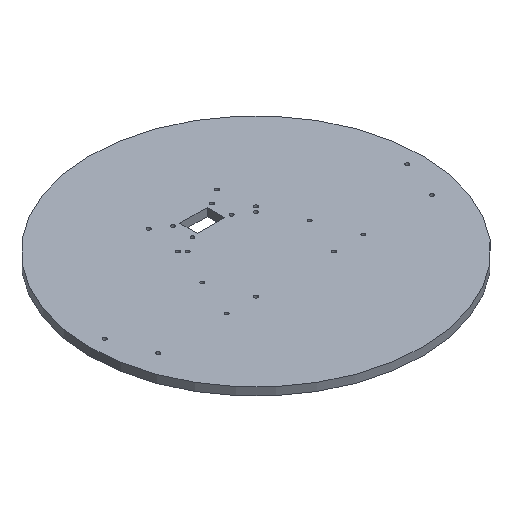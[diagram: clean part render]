
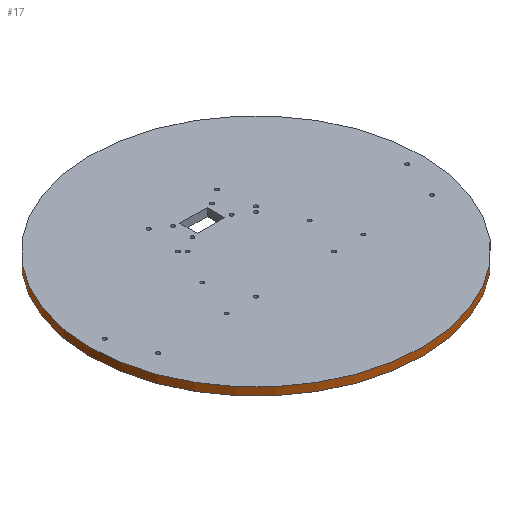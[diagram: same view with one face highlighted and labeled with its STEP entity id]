
A CAD part, isometric view. The second image highlights one B-rep face of the part: STEP entity #17.
In plain terms, the highlighted cylindrical face has radius 170 mm (diameter 340 mm), a full revolution.
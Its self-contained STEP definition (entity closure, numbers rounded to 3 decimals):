
#17 = ADVANCED_FACE('',(#18),#31,.T.);
#18 = FACE_BOUND('',#19,.T.);
#19 = EDGE_LOOP('',(#20,#54,#77,#104));
#20 = ORIENTED_EDGE('',*,*,#21,.F.);
#21 = EDGE_CURVE('',#22,#22,#24,.T.);
#22 = VERTEX_POINT('',#23);
#23 = CARTESIAN_POINT('',(170.,0.,78.));
#24 = SURFACE_CURVE('',#25,(#30,#42),.PCURVE_S1.);
#25 = CIRCLE('',#26,170.);
#26 = AXIS2_PLACEMENT_3D('',#27,#28,#29);
#27 = CARTESIAN_POINT('',(0.,0.,78.));
#28 = DIRECTION('',(0.,0.,1.));
#29 = DIRECTION('',(1.,0.,-0.));
#30 = PCURVE('',#31,#36);
#31 = CYLINDRICAL_SURFACE('',#32,170.);
#32 = AXIS2_PLACEMENT_3D('',#33,#34,#35);
#33 = CARTESIAN_POINT('',(0.,0.,70.));
#34 = DIRECTION('',(0.,0.,1.));
#35 = DIRECTION('',(1.,0.,-0.));
#36 = DEFINITIONAL_REPRESENTATION('',(#37),#41);
#37 = LINE('',#38,#39);
#38 = CARTESIAN_POINT('',(0.,8.));
#39 = VECTOR('',#40,1.);
#40 = DIRECTION('',(1.,0.));
#41 = ( GEOMETRIC_REPRESENTATION_CONTEXT(2) 
PARAMETRIC_REPRESENTATION_CONTEXT() REPRESENTATION_CONTEXT('2D SPACE',''
  ) );
#42 = PCURVE('',#43,#48);
#43 = PLANE('',#44);
#44 = AXIS2_PLACEMENT_3D('',#45,#46,#47);
#45 = CARTESIAN_POINT('',(0.,0.,78.));
#46 = DIRECTION('',(0.,0.,1.));
#47 = DIRECTION('',(1.,0.,-0.));
#48 = DEFINITIONAL_REPRESENTATION('',(#49),#53);
#49 = CIRCLE('',#50,170.);
#50 = AXIS2_PLACEMENT_2D('',#51,#52);
#51 = CARTESIAN_POINT('',(0.,0.));
#52 = DIRECTION('',(1.,0.));
#53 = ( GEOMETRIC_REPRESENTATION_CONTEXT(2) 
PARAMETRIC_REPRESENTATION_CONTEXT() REPRESENTATION_CONTEXT('2D SPACE',''
  ) );
#54 = ORIENTED_EDGE('',*,*,#55,.F.);
#55 = EDGE_CURVE('',#56,#22,#58,.T.);
#56 = VERTEX_POINT('',#57);
#57 = CARTESIAN_POINT('',(170.,0.,70.));
#58 = SEAM_CURVE('',#59,(#63,#70),.PCURVE_S1.);
#59 = LINE('',#60,#61);
#60 = CARTESIAN_POINT('',(170.,0.,70.));
#61 = VECTOR('',#62,1.);
#62 = DIRECTION('',(0.,0.,1.));
#63 = PCURVE('',#31,#64);
#64 = DEFINITIONAL_REPRESENTATION('',(#65),#69);
#65 = LINE('',#66,#67);
#66 = CARTESIAN_POINT('',(6.283,-0.));
#67 = VECTOR('',#68,1.);
#68 = DIRECTION('',(0.,1.));
#69 = ( GEOMETRIC_REPRESENTATION_CONTEXT(2) 
PARAMETRIC_REPRESENTATION_CONTEXT() REPRESENTATION_CONTEXT('2D SPACE',''
  ) );
#70 = PCURVE('',#31,#71);
#71 = DEFINITIONAL_REPRESENTATION('',(#72),#76);
#72 = LINE('',#73,#74);
#73 = CARTESIAN_POINT('',(0.,-0.));
#74 = VECTOR('',#75,1.);
#75 = DIRECTION('',(0.,1.));
#76 = ( GEOMETRIC_REPRESENTATION_CONTEXT(2) 
PARAMETRIC_REPRESENTATION_CONTEXT() REPRESENTATION_CONTEXT('2D SPACE',''
  ) );
#77 = ORIENTED_EDGE('',*,*,#78,.T.);
#78 = EDGE_CURVE('',#56,#56,#79,.T.);
#79 = SURFACE_CURVE('',#80,(#85,#92),.PCURVE_S1.);
#80 = CIRCLE('',#81,170.);
#81 = AXIS2_PLACEMENT_3D('',#82,#83,#84);
#82 = CARTESIAN_POINT('',(0.,0.,70.));
#83 = DIRECTION('',(0.,0.,1.));
#84 = DIRECTION('',(1.,0.,-0.));
#85 = PCURVE('',#31,#86);
#86 = DEFINITIONAL_REPRESENTATION('',(#87),#91);
#87 = LINE('',#88,#89);
#88 = CARTESIAN_POINT('',(0.,0.));
#89 = VECTOR('',#90,1.);
#90 = DIRECTION('',(1.,0.));
#91 = ( GEOMETRIC_REPRESENTATION_CONTEXT(2) 
PARAMETRIC_REPRESENTATION_CONTEXT() REPRESENTATION_CONTEXT('2D SPACE',''
  ) );
#92 = PCURVE('',#93,#98);
#93 = PLANE('',#94);
#94 = AXIS2_PLACEMENT_3D('',#95,#96,#97);
#95 = CARTESIAN_POINT('',(0.,0.,70.));
#96 = DIRECTION('',(0.,0.,1.));
#97 = DIRECTION('',(1.,0.,-0.));
#98 = DEFINITIONAL_REPRESENTATION('',(#99),#103);
#99 = CIRCLE('',#100,170.);
#100 = AXIS2_PLACEMENT_2D('',#101,#102);
#101 = CARTESIAN_POINT('',(0.,0.));
#102 = DIRECTION('',(1.,0.));
#103 = ( GEOMETRIC_REPRESENTATION_CONTEXT(2) 
PARAMETRIC_REPRESENTATION_CONTEXT() REPRESENTATION_CONTEXT('2D SPACE',''
  ) );
#104 = ORIENTED_EDGE('',*,*,#55,.T.);
